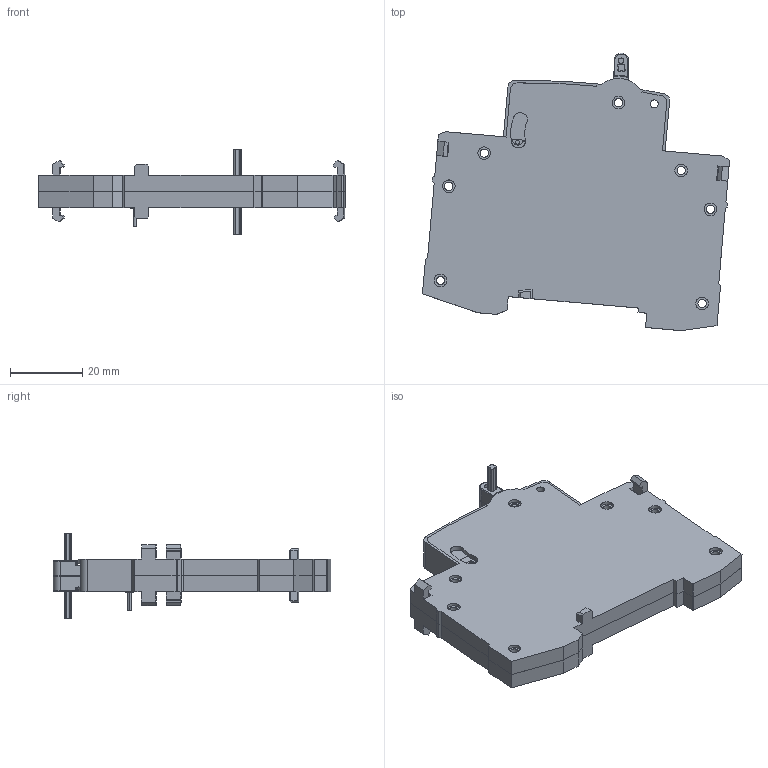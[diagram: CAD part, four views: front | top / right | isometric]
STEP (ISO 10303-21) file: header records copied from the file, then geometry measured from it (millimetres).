
FILE_DESCRIPTION((''),'2;1');
FILE_NAME('ZTJG713_ASM','2022-07-13T',('Admin'),(''),'PRO/ENGINEER BY PARAMETRIC TECHNOLOGY CORPORATION, 2008380','PRO/ENGINEER BY PARAMETRIC TECHNOLOGY CORPORATION, 2008380','');
FILE_SCHEMA(('CONFIG_CONTROL_DESIGN'));
Length unit declared in the file: millimetre
Products named in the file (11): QLJ2020-07-03-1A_1__ID42_X_T_1_; QLJ2020-07-03-1A_1__ID34_X_T_1_; QLJ2020-07-03-1A_1__ID30_X_T_1_; QLJ2020-07-03-1A_1__ID6_X_T_1_2; QLJ2020-07-03-1A_1__ID38_X_T_1_; ZTJG_ASM_1_ASM_1_ASM; SBG2022711_1; ZTJG707_ASM_1_ASM; PRT0006; PRT0007; ZTJG713_ASM
Assembly tree (10 placements, depth 4):
  ZTJG713_ASM
    ZTJG707_ASM_1_ASM
      ZTJG_ASM_1_ASM_1_ASM
        QLJ2020-07-03-1A_1__ID42_X_T_1_
        QLJ2020-07-03-1A_1__ID34_X_T_1_
        QLJ2020-07-03-1A_1__ID30_X_T_1_
        QLJ2020-07-03-1A_1__ID6_X_T_1_2
        QLJ2020-07-03-1A_1__ID38_X_T_1_
      SBG2022711_1
    PRT0006
    PRT0007
Bounding box: 85.12 x 76.87 x 23.8 mm (x, y, z)
Volume: 17740.4 mm3; surface area: 27500.9 mm2
Topology: 8 solids, 8 shells, 770 faces, 2175 edges, 1469 vertices
Faces by surface type: plane 394, cylinder 331, torus 24, cone 12, bspline 5, sphere 4
Entity records: 26060 total; most frequent: CARTESIAN_POINT 4871, DIRECTION 4578, ORIENTED_EDGE 4342, EDGE_CURVE 2171, AXIS2_PLACEMENT_3D 1640, VERTEX_POINT 1469, VECTOR 1298, LINE 1298
